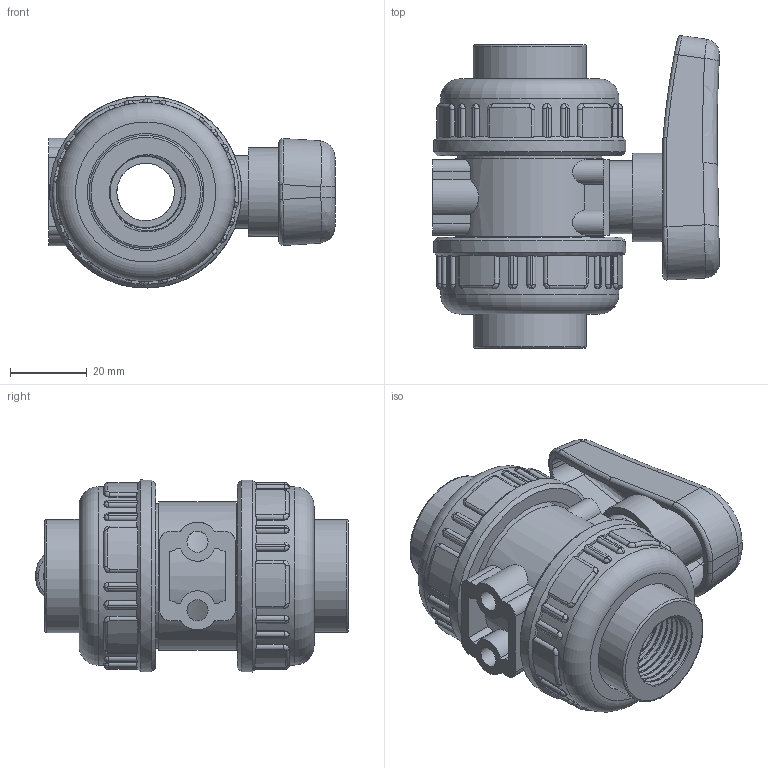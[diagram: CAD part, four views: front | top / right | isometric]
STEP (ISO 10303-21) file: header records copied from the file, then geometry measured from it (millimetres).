
FILE_DESCRIPTION(/* description */ (''),/* implementation_level */ '2;1');
FILE_NAME(/* name */ 'C:\Users\POLYPIPE\Desktop\DATASET INVENTOR\LIBRERIA EFFAST\3D_VALVOLE\3D_VALVOLE A SFERA\3D_BK1\3D_BHPBK1EH\3D_BHPBK1EH020B.stp',/* time_stamp */ '2018-01-25T17:07:46+01:00',/* author */ ('POLYPIPE'),/* organization */ (''),/* preprocessor_version */ 'ST-DEVELOPER v16.1',/* originating_system */ 'Autodesk Inventor 2016',/* authorisation */ '');
FILE_SCHEMA (('CONFIG_CONTROL_DESIGN'));
Length unit declared in the file: centimetre
Products named in the file (1): 3D_BHPBK1EH020B
Bounding box: 74.72 x 81.36 x 50 mm (x, y, z)
Volume: 98821.9 mm3; surface area: 43196 mm2
Topology: 3 solids, 3 shells, 578 faces, 1500 edges, 949 vertices
Faces by surface type: plane 194, cylinder 192, bspline 172, torus 16, cone 4
Full cylindrical faces by diameter (mm): 2.5 x4, 5.5 x2, 12 x1, 15 x3, 18.631 x2, 19 x1, 23 x1, 29.5 x2, 30.4 x2, 35.5 x2, 37.5 x2, 38.6 x1, 40.4 x2, 46.5 x2, 50 x2
Entity records: 68412 total; most frequent: CARTESIAN_POINT 54749, ORIENTED_EDGE 2888, DIRECTION 2395, EDGE_CURVE 1444, VERTEX_POINT 931, AXIS2_PLACEMENT_3D 906, EDGE_LOOP 645, LINE 583
